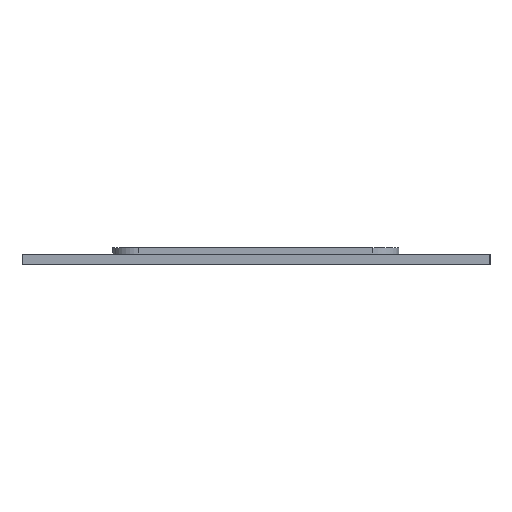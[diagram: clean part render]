
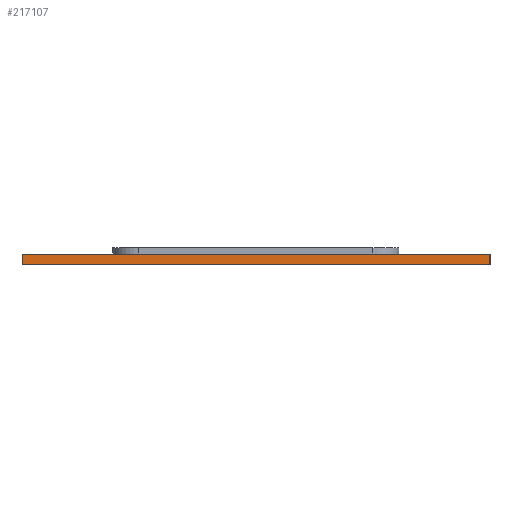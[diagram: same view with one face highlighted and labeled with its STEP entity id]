
A CAD part, left-side view. The second image highlights one B-rep face of the part: STEP entity #217107.
In plain terms, the highlighted planar face has unit normal (-1, 0, 0).
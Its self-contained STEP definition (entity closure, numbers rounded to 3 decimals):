
#21 = EDGE_CURVE('',#22,#24,#26,.T.);
#22 = VERTEX_POINT('',#23);
#23 = CARTESIAN_POINT('',(-32.,-21.,-13.2));
#24 = VERTEX_POINT('',#25);
#25 = CARTESIAN_POINT('',(-32.,15.,-13.2));
#26 = SURFACE_CURVE('',#27,(#31,#42),.PCURVE_S1.);
#27 = LINE('',#28,#29);
#28 = CARTESIAN_POINT('',(-32.,-44.5,-13.2));
#29 = VECTOR('',#30,1.);
#30 = DIRECTION('',(0.,1.,0.));
#31 = PCURVE('',#32,#37);
#32 = PLANE('',#33);
#33 = AXIS2_PLACEMENT_3D('',#34,#35,#36);
#34 = CARTESIAN_POINT('',(-44.,-68.,-13.2));
#35 = DIRECTION('',(0.,0.,1.));
#36 = DIRECTION('',(1.,0.,-0.));
#37 = DEFINITIONAL_REPRESENTATION('',(#38),#41);
#38 = B_SPLINE_CURVE_WITH_KNOTS('',1,(#39,#40),.UNSPECIFIED.,.F.,.F.,(2,
    2),(23.5,59.5),.PIECEWISE_BEZIER_KNOTS.);
#39 = CARTESIAN_POINT('',(12.,47.));
#40 = CARTESIAN_POINT('',(12.,83.));
#41 = ( GEOMETRIC_REPRESENTATION_CONTEXT(2) 
PARAMETRIC_REPRESENTATION_CONTEXT() REPRESENTATION_CONTEXT('2D SPACE',''
  ) );
#42 = PCURVE('',#43,#48);
#43 = PLANE('',#44);
#44 = AXIS2_PLACEMENT_3D('',#45,#46,#47);
#45 = CARTESIAN_POINT('',(-32.,-21.,-14.));
#46 = DIRECTION('',(1.,0.,0.));
#47 = DIRECTION('',(0.,0.,1.));
#48 = DEFINITIONAL_REPRESENTATION('',(#49),#52);
#49 = B_SPLINE_CURVE_WITH_KNOTS('',1,(#50,#51),.UNSPECIFIED.,.F.,.F.,(2,
    2),(23.5,59.5),.PIECEWISE_BEZIER_KNOTS.);
#50 = CARTESIAN_POINT('',(0.8,0.));
#51 = CARTESIAN_POINT('',(0.8,-36.));
#52 = ( GEOMETRIC_REPRESENTATION_CONTEXT(2) 
PARAMETRIC_REPRESENTATION_CONTEXT() REPRESENTATION_CONTEXT('2D SPACE',''
  ) );
#69 = PLANE('',#70);
#70 = AXIS2_PLACEMENT_3D('',#71,#72,#73);
#71 = CARTESIAN_POINT('',(-32.,-21.,-14.));
#72 = DIRECTION('',(0.,1.,0.));
#73 = DIRECTION('',(0.,0.,1.));
#119 = PLANE('',#120);
#120 = AXIS2_PLACEMENT_3D('',#121,#122,#123);
#121 = CARTESIAN_POINT('',(-32.,15.,-14.));
#122 = DIRECTION('',(0.,1.,0.));
#123 = DIRECTION('',(0.,0.,1.));
#217107 = ADVANCED_FACE('',(#217108),#43,.F.);
#217108 = FACE_BOUND('',#217109,.F.);
#217109 = EDGE_LOOP('',(#217110,#217133,#217134,#217157));
#217110 = ORIENTED_EDGE('',*,*,#217111,.F.);
#217111 = EDGE_CURVE('',#22,#217112,#217114,.T.);
#217112 = VERTEX_POINT('',#217113);
#217113 = CARTESIAN_POINT('',(-32.,-21.,-12.4));
#217114 = SURFACE_CURVE('',#217115,(#217119,#217126),.PCURVE_S1.);
#217115 = LINE('',#217116,#217117);
#217116 = CARTESIAN_POINT('',(-32.,-21.,-14.));
#217117 = VECTOR('',#217118,1.);
#217118 = DIRECTION('',(0.,0.,1.));
#217119 = PCURVE('',#43,#217120);
#217120 = DEFINITIONAL_REPRESENTATION('',(#217121),#217125);
#217121 = LINE('',#217122,#217123);
#217122 = CARTESIAN_POINT('',(0.,0.));
#217123 = VECTOR('',#217124,1.);
#217124 = DIRECTION('',(1.,0.));
#217125 = ( GEOMETRIC_REPRESENTATION_CONTEXT(2) 
PARAMETRIC_REPRESENTATION_CONTEXT() REPRESENTATION_CONTEXT('2D SPACE',''
  ) );
#217126 = PCURVE('',#69,#217127);
#217127 = DEFINITIONAL_REPRESENTATION('',(#217128),#217132);
#217128 = LINE('',#217129,#217130);
#217129 = CARTESIAN_POINT('',(0.,0.));
#217130 = VECTOR('',#217131,1.);
#217131 = DIRECTION('',(1.,0.));
#217132 = ( GEOMETRIC_REPRESENTATION_CONTEXT(2) 
PARAMETRIC_REPRESENTATION_CONTEXT() REPRESENTATION_CONTEXT('2D SPACE',''
  ) );
#217133 = ORIENTED_EDGE('',*,*,#21,.T.);
#217134 = ORIENTED_EDGE('',*,*,#217135,.T.);
#217135 = EDGE_CURVE('',#24,#217136,#217138,.T.);
#217136 = VERTEX_POINT('',#217137);
#217137 = CARTESIAN_POINT('',(-32.,15.,-12.4));
#217138 = SURFACE_CURVE('',#217139,(#217143,#217150),.PCURVE_S1.);
#217139 = LINE('',#217140,#217141);
#217140 = CARTESIAN_POINT('',(-32.,15.,-14.));
#217141 = VECTOR('',#217142,1.);
#217142 = DIRECTION('',(0.,0.,1.));
#217143 = PCURVE('',#43,#217144);
#217144 = DEFINITIONAL_REPRESENTATION('',(#217145),#217149);
#217145 = LINE('',#217146,#217147);
#217146 = CARTESIAN_POINT('',(0.,-36.));
#217147 = VECTOR('',#217148,1.);
#217148 = DIRECTION('',(1.,0.));
#217149 = ( GEOMETRIC_REPRESENTATION_CONTEXT(2) 
PARAMETRIC_REPRESENTATION_CONTEXT() REPRESENTATION_CONTEXT('2D SPACE',''
  ) );
#217150 = PCURVE('',#119,#217151);
#217151 = DEFINITIONAL_REPRESENTATION('',(#217152),#217156);
#217152 = LINE('',#217153,#217154);
#217153 = CARTESIAN_POINT('',(0.,0.));
#217154 = VECTOR('',#217155,1.);
#217155 = DIRECTION('',(1.,0.));
#217156 = ( GEOMETRIC_REPRESENTATION_CONTEXT(2) 
PARAMETRIC_REPRESENTATION_CONTEXT() REPRESENTATION_CONTEXT('2D SPACE',''
  ) );
#217157 = ORIENTED_EDGE('',*,*,#217158,.F.);
#217158 = EDGE_CURVE('',#217112,#217136,#217159,.T.);
#217159 = SURFACE_CURVE('',#217160,(#217164,#217170),.PCURVE_S1.);
#217160 = LINE('',#217161,#217162);
#217161 = CARTESIAN_POINT('',(-32.,-43.9,-12.4));
#217162 = VECTOR('',#217163,1.);
#217163 = DIRECTION('',(0.,1.,0.));
#217164 = PCURVE('',#43,#217165);
#217165 = DEFINITIONAL_REPRESENTATION('',(#217166),#217169);
#217166 = B_SPLINE_CURVE_WITH_KNOTS('',1,(#217167,#217168),
  .UNSPECIFIED.,.F.,.F.,(2,2),(22.9,58.9),.PIECEWISE_BEZIER_KNOTS.);
#217167 = CARTESIAN_POINT('',(1.6,0.));
#217168 = CARTESIAN_POINT('',(1.6,-36.));
#217169 = ( GEOMETRIC_REPRESENTATION_CONTEXT(2) 
PARAMETRIC_REPRESENTATION_CONTEXT() REPRESENTATION_CONTEXT('2D SPACE',''
  ) );
#217170 = PCURVE('',#217171,#217176);
#217171 = PLANE('',#217172);
#217172 = AXIS2_PLACEMENT_3D('',#217173,#217174,#217175);
#217173 = CARTESIAN_POINT('',(-42.8,-66.8,-12.4));
#217174 = DIRECTION('',(0.,0.,1.));
#217175 = DIRECTION('',(1.,0.,-0.));
#217176 = DEFINITIONAL_REPRESENTATION('',(#217177),#217180);
#217177 = B_SPLINE_CURVE_WITH_KNOTS('',1,(#217178,#217179),
  .UNSPECIFIED.,.F.,.F.,(2,2),(22.9,58.9),.PIECEWISE_BEZIER_KNOTS.);
#217178 = CARTESIAN_POINT('',(10.8,45.8));
#217179 = CARTESIAN_POINT('',(10.8,81.8));
#217180 = ( GEOMETRIC_REPRESENTATION_CONTEXT(2) 
PARAMETRIC_REPRESENTATION_CONTEXT() REPRESENTATION_CONTEXT('2D SPACE',''
  ) );
